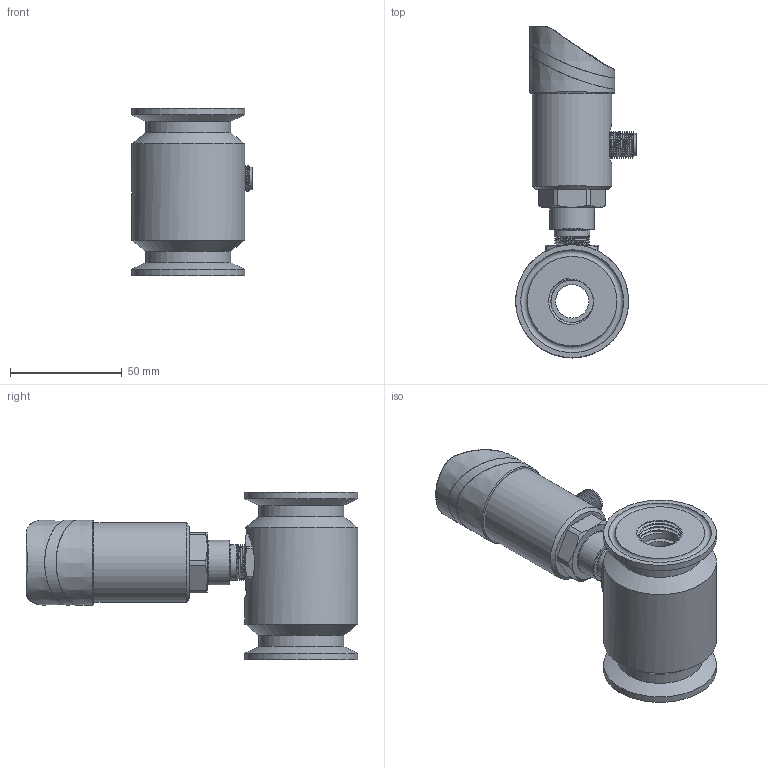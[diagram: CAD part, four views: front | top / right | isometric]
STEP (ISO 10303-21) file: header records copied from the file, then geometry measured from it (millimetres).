
FILE_DESCRIPTION( (''), '2;1');
FILE_NAME( 'QTKE_DN15_tri-clamp.step', '2024-10-15T08:25:39+08:00', (''), (''), '', '', '');
FILE_SCHEMA (('AUTOMOTIVE_DESIGN { 1 0 10303 214 3 1 1 1 }'));
Length unit declared in the file: millimetre
Products named in the file (1): QTKE DN15_tri-clamp
Bounding box: 53.93 x 148.25 x 75 mm (x, y, z)
Volume: 177800.7 mm3; surface area: 49078.2 mm2
Topology: 5 solids, 6 shells, 733 faces, 1902 edges, 1241 vertices
Faces by surface type: plane 269, cylinder 142, extrusion 141, cone 74, bspline 62, torus 34, sphere 11
Full cylindrical faces by diameter (mm): 1.689 x1, 2.7 x3, 12 x1, 15 x1, 15.9 x1, 16.5 x1, 17 x1, 19 x7, 20 x1, 23 x3, 26 x5, 35.5 x1, 37.001 x1, 38 x2, 50.5 x3
Entity records: 39453 total; most frequent: CARTESIAN_POINT 21495, ORIENTED_EDGE 3560, DIRECTION 2815, EDGE_CURVE 1780, VERTEX_POINT 1191, VECTOR 953, AXIS2_PLACEMENT_3D 931, EDGE_LOOP 857
